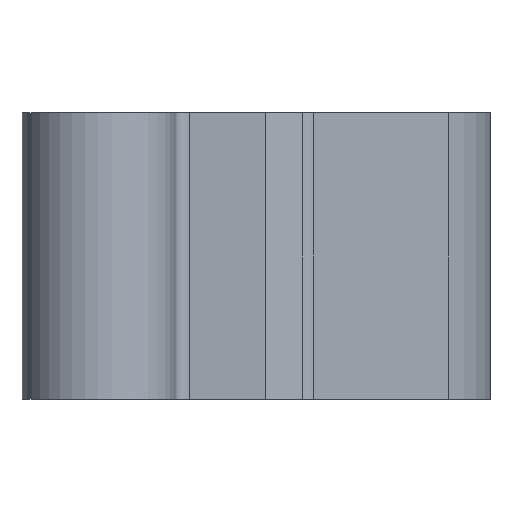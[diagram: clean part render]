
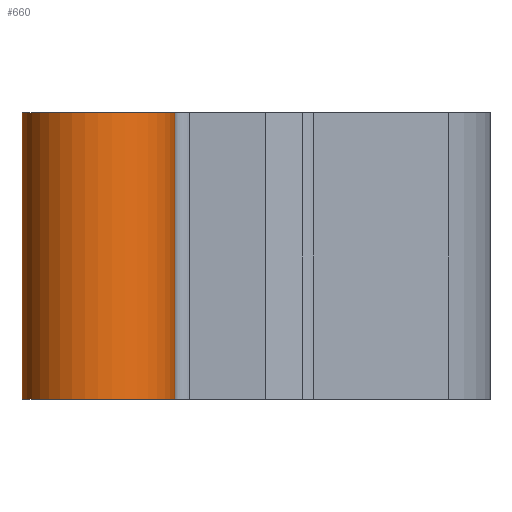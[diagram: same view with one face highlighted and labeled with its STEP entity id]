
A CAD part, front view. The second image highlights one B-rep face of the part: STEP entity #660.
In plain terms, the highlighted cylindrical face has radius 4 mm (diameter 8 mm), a partial arc.
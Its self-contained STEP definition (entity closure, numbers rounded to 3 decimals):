
#49 = CARTESIAN_POINT ( 'NONE',  ( -6.013, -31.452, 15. ) ) ;
#52 = CARTESIAN_POINT ( 'NONE',  ( 1.987, -31.452, 15. ) ) ;
#90 = EDGE_CURVE ( 'NONE', #794, #371, #433, .T. ) ;
#92 = DIRECTION ( 'NONE',  ( 0., 0., -1. ) ) ;
#104 = VERTEX_POINT ( 'NONE', #581 ) ;
#150 = ORIENTED_EDGE ( 'NONE', *, *, #425, .F. ) ;
#153 = CARTESIAN_POINT ( 'NONE',  ( -6.013, -31.452, 15. ) ) ;
#191 = CARTESIAN_POINT ( 'NONE',  ( 1.987, -31.452, 0. ) ) ;
#214 = AXIS2_PLACEMENT_3D ( 'NONE', #798, #416, #669 ) ;
#240 = CYLINDRICAL_SURFACE ( 'NONE', #214, 4. ) ;
#262 = CARTESIAN_POINT ( 'NONE',  ( 1.987, -31.452, 15. ) ) ;
#289 = VECTOR ( 'NONE', #92, 1000. ) ;
#295 = ORIENTED_EDGE ( 'NONE', *, *, #595, .T. ) ;
#329 = DIRECTION ( 'NONE',  ( 0., 0., -1. ) ) ;
#353 = AXIS2_PLACEMENT_3D ( 'NONE', #458, #536, #586 ) ;
#354 = CARTESIAN_POINT ( 'NONE',  ( -2.013, -31.452, 0. ) ) ;
#371 = VERTEX_POINT ( 'NONE', #191 ) ;
#395 = ORIENTED_EDGE ( 'NONE', *, *, #556, .T. ) ;
#405 = DIRECTION ( 'NONE',  ( 0., 0., 1. ) ) ;
#416 = DIRECTION ( 'NONE',  ( 0., 0., -1. ) ) ;
#425 = EDGE_CURVE ( 'NONE', #807, #794, #761, .T. ) ;
#433 = LINE ( 'NONE', #262, #588 ) ;
#458 = CARTESIAN_POINT ( 'NONE',  ( -2.013, -31.452, 15. ) ) ;
#462 = CIRCLE ( 'NONE', #514, 4. ) ;
#514 = AXIS2_PLACEMENT_3D ( 'NONE', #354, #405, #723 ) ;
#526 = LINE ( 'NONE', #153, #289 ) ;
#536 = DIRECTION ( 'NONE',  ( 0., 0., 1. ) ) ;
#556 = EDGE_CURVE ( 'NONE', #807, #104, #526, .T. ) ;
#581 = CARTESIAN_POINT ( 'NONE',  ( -6.013, -31.452, 0. ) ) ;
#586 = DIRECTION ( 'NONE',  ( 1., 0., 0. ) ) ;
#588 = VECTOR ( 'NONE', #329, 1000. ) ;
#595 = EDGE_CURVE ( 'NONE', #104, #371, #462, .T. ) ;
#611 = FACE_OUTER_BOUND ( 'NONE', #816, .T. ) ;
#615 = ORIENTED_EDGE ( 'NONE', *, *, #90, .F. ) ;
#660 = ADVANCED_FACE ( 'NONE', ( #611 ), #240, .T. ) ;
#669 = DIRECTION ( 'NONE',  ( -1., 0., 0. ) ) ;
#723 = DIRECTION ( 'NONE',  ( 1., 0., 0. ) ) ;
#761 = CIRCLE ( 'NONE', #353, 4. ) ;
#794 = VERTEX_POINT ( 'NONE', #52 ) ;
#798 = CARTESIAN_POINT ( 'NONE',  ( -2.013, -31.452, 15. ) ) ;
#807 = VERTEX_POINT ( 'NONE', #49 ) ;
#816 = EDGE_LOOP ( 'NONE', ( #150, #395, #295, #615 ) ) ;
